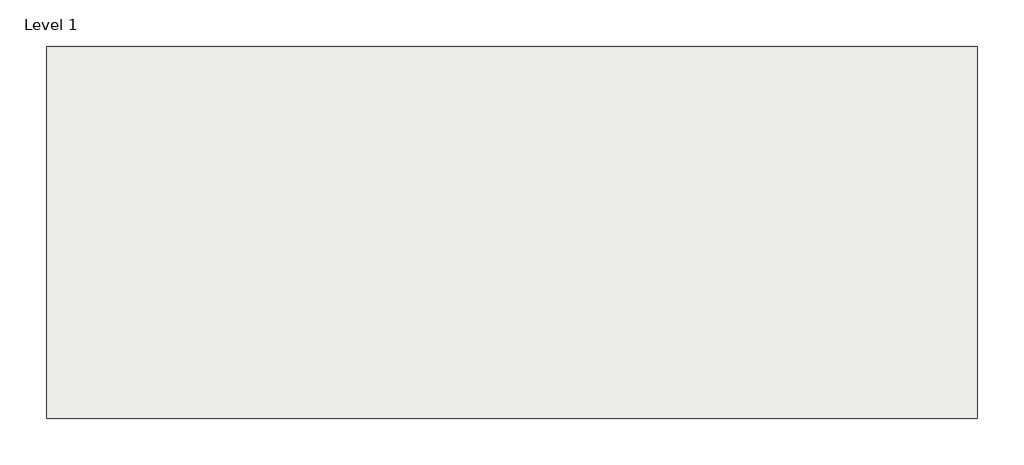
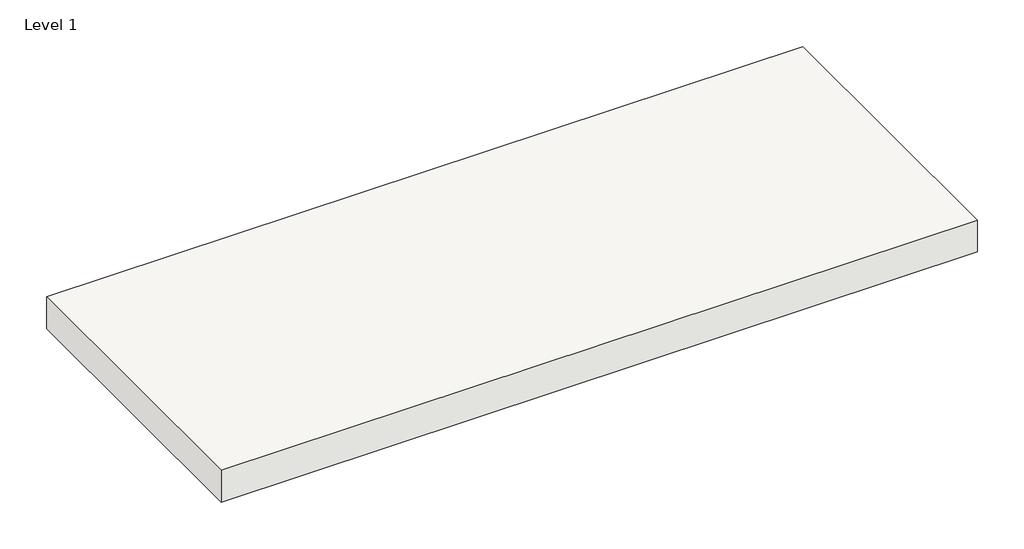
# One storey: 1 slab.
"""IFC4 building model written with IfcOpenShell, lengths in millimetres."""

import ifcopenshell
import ifcopenshell.guid

model = None  # the IFC model being written
_history = None  # IfcOwnerHistory: only IFC2X3 demands one
_inside = {}  # id of a spatial element -> (the spatial element, [elements in it])
_under = {}  # id of a project, library or spatial element -> (it, [spatial elements below it])
_declared = {}  # id of a project -> (the project, [libraries it declares])
_typed = {}  # id of a type object -> (the type object, [elements of that type])
_made_of = {}  # id of a material, layer set ... -> (it, [elements and type objects made of it])


def new_model(schema):
    """Start an empty IFC model of exactly this schema.

    Asked for "IFC4X3", IfcOpenShell would pick the latest addendum, in which some entities
    have other attributes; the version numbers below select the first issue.
    IFC2X3 requires an IfcOwnerHistory on every rooted entity: one is made here for all.
    """
    global model, _history
    if schema == "IFC4X3":
        model = ifcopenshell.file(schema_version=(4, 3, 0, 0))
    else:
        model = ifcopenshell.file(schema=schema)
    _inside.clear()
    _under.clear()
    _declared.clear()
    _typed.clear()
    _made_of.clear()
    _history = None
    if model.schema == "IFC2X3":
        org = make("IfcOrganization", Name="unknown")
        user = make(
            "IfcPersonAndOrganization",
            ThePerson=make("IfcPerson", FamilyName="unknown"),
            TheOrganization=org,
        )
        app = make(
            "IfcApplication",
            ApplicationDeveloper=org,
            Version="unknown",
            ApplicationFullName="unknown",
            ApplicationIdentifier="unknown",
        )
        _history = make(
            "IfcOwnerHistory",
            OwningUser=user,
            OwningApplication=app,
            ChangeAction="ADDED",
            CreationDate=0,
        )
    return model


def make(cls, **values):
    """One entity of the class cls with the attributes given. An attribute that is None is left unset."""
    return model.create_entity(
        cls, **{name: value for name, value in values.items() if value is not None}
    )


def rooted(cls, **values):
    """An entity with a GlobalId (a new one), such as an element, a storey or a relation."""
    return make(cls, GlobalId=ifcopenshell.guid.new(), OwnerHistory=_history, **values)


def si_unit(unit_type, name, prefix=None):
    """IfcSIUnit, for example si_unit("LENGTHUNIT", "METRE", prefix="MILLI")."""
    return make("IfcSIUnit", UnitType=unit_type, Prefix=prefix, Name=name)


def assignment(units):
    """IfcUnitAssignment: the units of a project."""
    return None if units is None else make("IfcUnitAssignment", Units=units)


def point(xyz):
    """IfcCartesianPoint."""
    return None if xyz is None else make("IfcCartesianPoint", Coordinates=xyz)


def direction(xyz):
    """IfcDirection."""
    return None if xyz is None else make("IfcDirection", DirectionRatios=xyz)


def frame(location, z_axis=None, x_axis=None):
    """IfcAxis2Placement3D, a coordinate frame: its origin and axes. An axis left out is left unset."""
    return make(
        "IfcAxis2Placement3D",
        Location=point(location),
        Axis=direction(z_axis),
        RefDirection=direction(x_axis),
    )


def origin():
    """The frame at (0, 0, 0) with its axes left unset."""
    return frame((0.0, 0.0, 0.0))


def place(relative_to, where):
    """IfcLocalPlacement: puts the frame where relative to a parent placement (None: the world)."""
    return make(
        "IfcLocalPlacement", PlacementRelTo=relative_to, RelativePlacement=where
    )


def context(
    kind, dimensions, precision=None, world=None, true_north=None, identifier=None
):
    """IfcGeometricRepresentationContext, for example the 3D "Model" context."""
    return make(
        "IfcGeometricRepresentationContext",
        ContextIdentifier=identifier,
        ContextType=kind,
        CoordinateSpaceDimension=dimensions,
        Precision=precision,
        WorldCoordinateSystem=world,
        TrueNorth=true_north,
    )


def project(units=None, contexts=None):
    """IfcProject with its units and contexts."""
    return rooted(
        "IfcProject",
        Name="project",
        RepresentationContexts=contexts,
        UnitsInContext=assignment(units),
    )


def spatial(cls, under=None, at=None, **own):
    """A site, building, storey or space (cls), placed at a placement, below another one or the project."""
    s = rooted(cls, ObjectPlacement=at, **own)
    if under is not None:
        _under.setdefault(under.id(), (under, []))[1].append(s)
    return s


def polyline(points):
    """IfcPolyline through the points."""
    return make("IfcPolyline", Points=[point(p) for p in points])


def outline(outer, holes=None, kind="AREA"):
    """IfcArbitraryClosedProfileDef: a profile drawn as a closed curve; with holes, ...WithVoids."""
    if holes is None:
        return make("IfcArbitraryClosedProfileDef", ProfileType=kind, OuterCurve=outer)
    return make(
        "IfcArbitraryProfileDefWithVoids",
        ProfileType=kind,
        OuterCurve=outer,
        InnerCurves=holes,
    )


def extrude(swept, where, along, depth):
    """IfcExtrudedAreaSolid: the profile swept, set in the frame where, extruded along a direction by depth."""
    return make(
        "IfcExtrudedAreaSolid",
        SweptArea=swept,
        Position=where,
        ExtrudedDirection=direction(along),
        Depth=depth,
    )


def shape(context_of_items, identifier, shape_type, items):
    """IfcShapeRepresentation: the items that make up one representation, for example the "Body"."""
    return make(
        "IfcShapeRepresentation",
        ContextOfItems=context_of_items,
        RepresentationIdentifier=identifier,
        RepresentationType=shape_type,
        Items=items,
    )


def made_of(thing, what):
    """Note that an element or type object is made of a material, layer set ...; save() writes the relation."""
    if what is not None:
        _made_of.setdefault(what.id(), (what, []))[1].append(thing)
    return thing


def element(
    cls,
    number,
    at=None,
    inside=None,
    cuts=None,
    type_object=None,
    material=None,
    context=None,
    identifier="Body",
    shape_type=None,
    held_by="IfcProductDefinitionShape",
    body=None,
    shapes=None,
    **own,
):
    """One element of the class cls, such as IfcWall. Its Tag is "e" and its number.

    at: its placement. inside: the storey or other place that contains it. cuts: it is an
    opening in that element (IfcRelVoidsElement). A single representation is given by context,
    identifier, shape_type and body (its items); several are given by shapes. held_by: the class
    of the entity that holds the representations. save() writes the other relations.
    """
    e = rooted(cls, Tag="e%d" % number, ObjectPlacement=at, **own)
    if body is not None:
        shapes = [shape(context, identifier, shape_type, body)]
    if shapes is not None:
        e.Representation = make(held_by, Representations=shapes)
    if inside is not None:
        _inside.setdefault(inside.id(), (inside, []))[1].append(e)
    if cuts is not None:
        rooted(
            "IfcRelVoidsElement", RelatingBuildingElement=cuts, RelatedOpeningElement=e
        )
    if type_object is not None:
        _typed.setdefault(type_object.id(), (type_object, []))[1].append(e)
    return made_of(e, material)


def aggregate(whole, parts):
    """IfcRelAggregates: a whole, such as a stair, and the parts it consists of."""
    return rooted("IfcRelAggregates", RelatingObject=whole, RelatedObjects=parts)


def save(model, path):
    """Write the relations noted so far, then the file.

    IfcRelAggregates (storeys below a building ...), IfcRelContainedInSpatialStructure (elements
    in a storey), IfcRelDefinesByType, IfcRelAssociatesMaterial and IfcRelDeclares: one each for
    every whole, place, type object, material and project.
    """
    for whole, parts in _under.values():
        aggregate(whole, parts)
    for where, things in _inside.values():
        rooted(
            "IfcRelContainedInSpatialStructure",
            RelatedElements=things,
            RelatingStructure=where,
        )
    for kind, things in _typed.values():
        rooted("IfcRelDefinesByType", RelatedObjects=things, RelatingType=kind)
    for what, things in _made_of.values():
        rooted("IfcRelAssociatesMaterial", RelatedObjects=things, RelatingMaterial=what)
    for by, libraries in _declared.values():
        rooted("IfcRelDeclares", RelatingContext=by, RelatedDefinitions=libraries)
    model.write(path)


model = new_model("IFC4")

# Units and contexts
model_context = context("Model", 3, world=origin())
ifc_project = project(units=[si_unit("LENGTHUNIT", "METRE", prefix="MILLI")], contexts=[model_context])

# Site, building, storey
site = spatial("IfcSite", under=ifc_project)
building = spatial("IfcBuilding", under=site)
storey = spatial("IfcBuildingStorey", under=building, Name="Level 1", Elevation=0.0)

# Slab
placement = place(None, origin())
element("IfcSlab", 1, ObjectType="ENVU6.0LA", at=placement, inside=storey, context=model_context, shape_type="SweptSolid", body=[
    extrude(outline(polyline([(5506.4279261, 3831.5926078), (5506.4279261, 2002.7926078), (934.4279261, 2002.7926078), (934.4279261, 3831.5926078), (5506.4279261, 3831.5926078)])), frame((0.0, 0.0, -203.2), z_axis=(0.0, 0.0, 1.0), x_axis=(1.0, 0.0, 0.0)), (0.0, 0.0, 1.0), 203.2),
])

save(model, "model.ifc")
